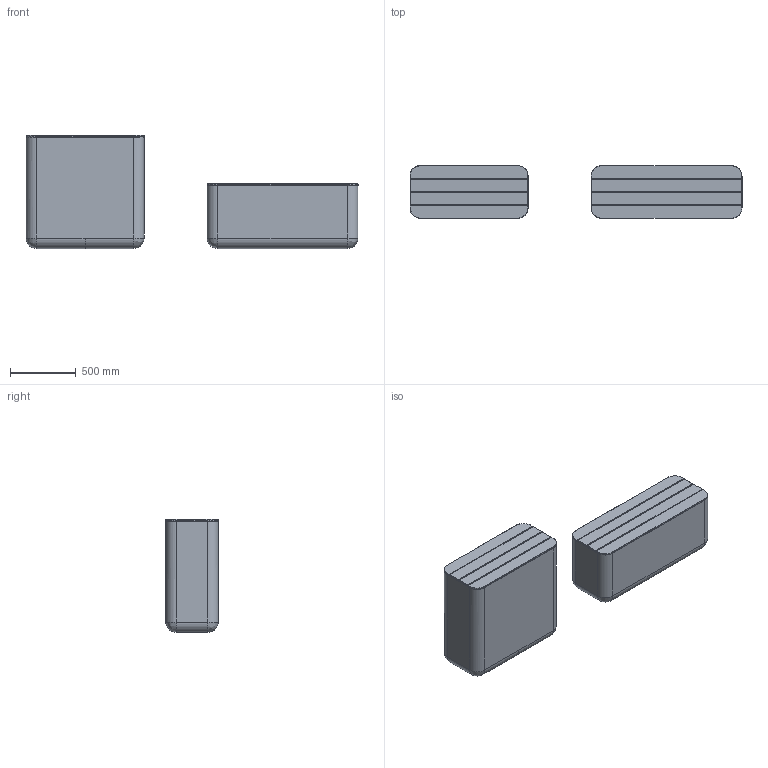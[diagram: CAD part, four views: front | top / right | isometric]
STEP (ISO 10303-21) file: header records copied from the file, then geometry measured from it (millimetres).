
FILE_DESCRIPTION(/* description */ (''),/* implementation_level */ '2;1');
FILE_NAME(/* name */ 'PLANTERS_Terra collection_Design Alain Gilles',/* time_stamp */ '2023-12-22T16:47:00+01:00',/* author */ (''),/* organization */ (''),/* preprocessor_version */ 'ST-DEVELOPER v19.2',/* originating_system */ 'Rhino 8.1',/* authorisation */ '');
FILE_SCHEMA (('CONFIG_CONTROL_DESIGN'));
Length unit declared in the file: millimetre
Products named in the file (1): Document
Bounding box: 2531.21 x 400 x 862 mm (x, y, z)
Volume: 349051364.1 mm3; surface area: 9283247.1 mm2
Topology: 3 solids, 6 shells, 181 faces, 398 edges, 220 vertices
Faces by surface type: plane 119, bspline 52, cylinder 10
Entity records: 9101 total; most frequent: CARTESIAN_POINT 6189, ORIENTED_EDGE 769, EDGE_CURVE 391, B_SPLINE_CURVE_WITH_KNOTS 329, VERTEX_POINT 220, DIRECTION 189, EDGE_LOOP 183, ADVANCED_FACE 181
